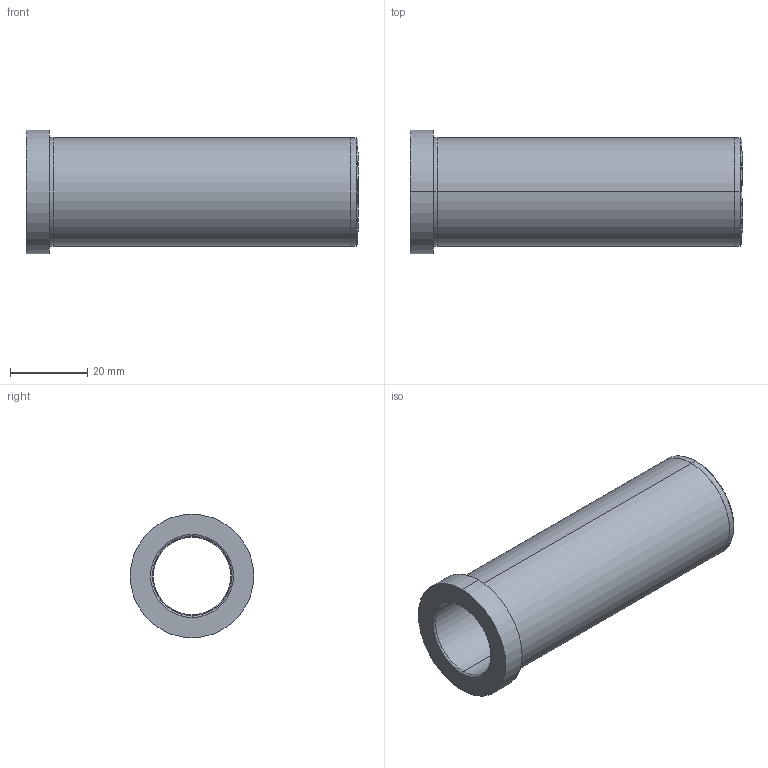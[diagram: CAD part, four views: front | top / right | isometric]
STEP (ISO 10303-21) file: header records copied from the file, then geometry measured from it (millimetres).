
FILE_DESCRIPTION( ( 'STEP AP203' ), '1' );
FILE_NAME( 'C:/Projects/D20 - 20x86.step', '2002-12-31T23:49:15', ( ' ' ), ( ' ' ), 'XStep 1.0', ' ', ' ' );
FILE_SCHEMA( ( 'CONFIG_CONTROL_DESIGN' ) );
Length unit declared in the file: metre
Products named in the file (1): 1
Bounding box: 86 x 32 x 32 mm (x, y, z)
Volume: 26704.4 mm3; surface area: 14018.3 mm2
Topology: 1 solids, 1 shells, 24 faces, 48 edges, 30 vertices
Faces by surface type: revolution 14, bspline 10
Entity records: 755 total; most frequent: CARTESIAN_POINT 221, ORIENTED_EDGE 96, DIRECTION 90, EDGE_CURVE 48, AXIS2_PLACEMENT_3D 31, EDGE_LOOP 30, VERTEX_POINT 30, CIRCLE 30
